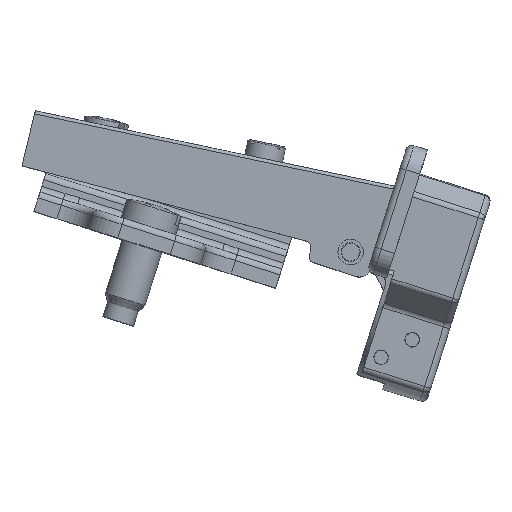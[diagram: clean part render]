
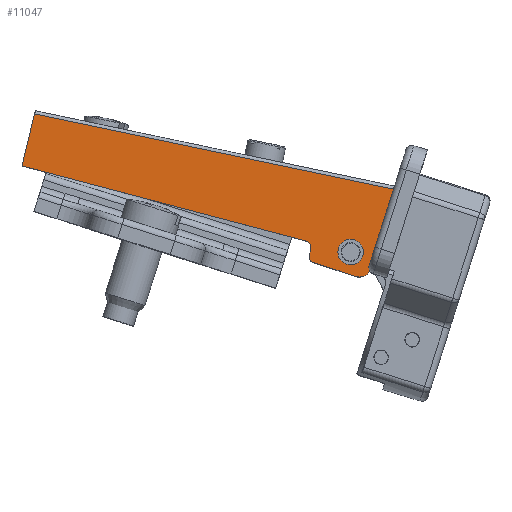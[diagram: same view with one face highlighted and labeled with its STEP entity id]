
A CAD part, top view. The second image highlights one B-rep face of the part: STEP entity #11047.
In plain terms, the highlighted planar face has unit normal (0, 0, 1).
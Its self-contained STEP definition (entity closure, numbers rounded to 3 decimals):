
#1162=LINE('',#20436,#1947);
#1166=LINE('',#20449,#1951);
#1168=LINE('',#20458,#1953);
#1175=LINE('',#20477,#1960);
#1177=LINE('',#20484,#1962);
#1182=LINE('',#20493,#1967);
#1191=LINE('',#20552,#1976);
#1195=LINE('',#20581,#1980);
#1947=VECTOR('',#15696,8.4);
#1951=VECTOR('',#15712,46.001);
#1953=VECTOR('',#15720,0.824);
#1960=VECTOR('',#15739,1.048);
#1962=VECTOR('',#15747,3.939);
#1967=VECTOR('',#15756,6.887);
#1976=VECTOR('',#15807,57.437);
#1980=VECTOR('',#15825,8.752);
#2211=PLANE('',#12387);
#2313=FACE_BOUND('',#3733,.T.);
#2971=FACE_OUTER_BOUND('',#3732,.T.);
#3732=EDGE_LOOP('',(#10066,#10067,#10068,#10069,#10070,#10071,#10072,#10073,
#10074,#10075,#10076));
#3733=EDGE_LOOP('',(#10077));
#4384=CIRCLE('',#12352,1.);
#4385=CIRCLE('',#12355,1.);
#4386=CIRCLE('',#12360,2.);
#4387=CIRCLE('',#12362,1.5);
#5354=VERTEX_POINT('',#20433);
#5355=VERTEX_POINT('',#20435);
#5358=VERTEX_POINT('',#20447);
#5361=VERTEX_POINT('',#20455);
#5362=VERTEX_POINT('',#20457);
#5367=VERTEX_POINT('',#20471);
#5368=VERTEX_POINT('',#20475);
#5369=VERTEX_POINT('',#20479);
#5370=VERTEX_POINT('',#20483);
#5372=VERTEX_POINT('',#20491);
#5373=VERTEX_POINT('',#20497);
#5385=VERTEX_POINT('',#20551);
#6897=EDGE_CURVE('',#5354,#5355,#1162,.T.);
#6904=EDGE_CURVE('',#5358,#5354,#1166,.T.);
#6908=EDGE_CURVE('',#5361,#5362,#1168,.T.);
#6916=EDGE_CURVE('',#5367,#5358,#4384,.T.);
#6918=EDGE_CURVE('',#5368,#5367,#1175,.T.);
#6920=EDGE_CURVE('',#5369,#5368,#4385,.T.);
#6921=EDGE_CURVE('',#5362,#5370,#1177,.T.);
#6926=EDGE_CURVE('',#5372,#5369,#1182,.T.);
#6927=EDGE_CURVE('',#5370,#5372,#4386,.T.);
#6928=EDGE_CURVE('',#5373,#5373,#4387,.T.);
#6948=EDGE_CURVE('',#5355,#5385,#1191,.T.);
#6957=EDGE_CURVE('',#5385,#5361,#1195,.T.);
#10066=ORIENTED_EDGE('',*,*,#6948,.F.);
#10067=ORIENTED_EDGE('',*,*,#6897,.F.);
#10068=ORIENTED_EDGE('',*,*,#6904,.F.);
#10069=ORIENTED_EDGE('',*,*,#6916,.F.);
#10070=ORIENTED_EDGE('',*,*,#6918,.F.);
#10071=ORIENTED_EDGE('',*,*,#6920,.F.);
#10072=ORIENTED_EDGE('',*,*,#6926,.F.);
#10073=ORIENTED_EDGE('',*,*,#6927,.F.);
#10074=ORIENTED_EDGE('',*,*,#6921,.F.);
#10075=ORIENTED_EDGE('',*,*,#6908,.F.);
#10076=ORIENTED_EDGE('',*,*,#6957,.F.);
#10077=ORIENTED_EDGE('',*,*,#6928,.F.);
#11047=ADVANCED_FACE('',(#2971,#2313),#2211,.F.);
#12352=AXIS2_PLACEMENT_3D('',#20473,#15734,#15735);
#12355=AXIS2_PLACEMENT_3D('',#20481,#15743,#15744);
#12360=AXIS2_PLACEMENT_3D('',#20495,#15759,#15760);
#12362=AXIS2_PLACEMENT_3D('',#20498,#15763,#15764);
#12387=AXIS2_PLACEMENT_3D('',#20582,#15826,#15827);
#15696=DIRECTION('',(0.,1.,0.));
#15712=DIRECTION('',(-1.,0.021,0.));
#15720=DIRECTION('',(-0.999,0.053,0.));
#15734=DIRECTION('center_axis',(0.,0.,1.));
#15735=DIRECTION('ref_axis',(0.705,0.709,0.));
#15739=DIRECTION('',(-0.027,1.,0.));
#15743=DIRECTION('center_axis',(0.,0.,-1.));
#15744=DIRECTION('ref_axis',(-0.726,-0.688,0.));
#15747=DIRECTION('',(0.021,-1.,0.));
#15756=DIRECTION('',(-0.997,0.08,0.));
#15759=DIRECTION('center_axis',(0.,0.,-1.));
#15760=DIRECTION('ref_axis',(0.686,-0.728,0.));
#15763=DIRECTION('center_axis',(0.,0.,1.));
#15764=DIRECTION('ref_axis',(-1.,0.,0.));
#15807=DIRECTION('',(1.,0.031,0.));
#15825=DIRECTION('',(0.031,-1.,0.));
#15826=DIRECTION('center_axis',(0.,0.,-1.));
#15827=DIRECTION('ref_axis',(1.,0.031,0.));
#20433=CARTESIAN_POINT('',(-53.179,0.968,8.15));
#20435=CARTESIAN_POINT('',(-53.179,9.368,8.15));
#20436=CARTESIAN_POINT('',(-53.179,9.864,8.15));
#20447=CARTESIAN_POINT('',(-7.188,0.023,8.15));
#20449=CARTESIAN_POINT('',(-53.409,0.973,8.15));
#20455=CARTESIAN_POINT('',(4.503,2.409,8.15));
#20457=CARTESIAN_POINT('',(3.679,2.453,8.15));
#20458=CARTESIAN_POINT('',(-25.004,3.968,8.15));
#20471=CARTESIAN_POINT('',(-6.209,-0.95,8.15));
#20473=CARTESIAN_POINT('Origin',(-7.208,-0.977,8.15));
#20475=CARTESIAN_POINT('',(-6.181,-1.998,8.15));
#20477=CARTESIAN_POINT('',(-6.383,5.56,8.15));
#20479=CARTESIAN_POINT('',(-5.261,-2.968,8.15));
#20481=CARTESIAN_POINT('Origin',(-5.181,-1.971,8.15));
#20483=CARTESIAN_POINT('',(3.764,-1.485,8.15));
#20484=CARTESIAN_POINT('',(3.653,3.688,8.15));
#20491=CARTESIAN_POINT('',(1.603,-3.522,8.15));
#20493=CARTESIAN_POINT('',(-30.164,-0.96,8.15));
#20495=CARTESIAN_POINT('Origin',(1.764,-1.528,8.15));
#20497=CARTESIAN_POINT('',(1.5,0.,8.15));
#20498=CARTESIAN_POINT('Origin',(0.,0.,8.15));
#20551=CARTESIAN_POINT('',(4.23,11.157,8.15));
#20552=CARTESIAN_POINT('',(-24.355,10.266,8.15));
#20581=CARTESIAN_POINT('',(4.214,11.657,8.15));
#20582=CARTESIAN_POINT('Origin',(-53.456,9.859,8.15));
